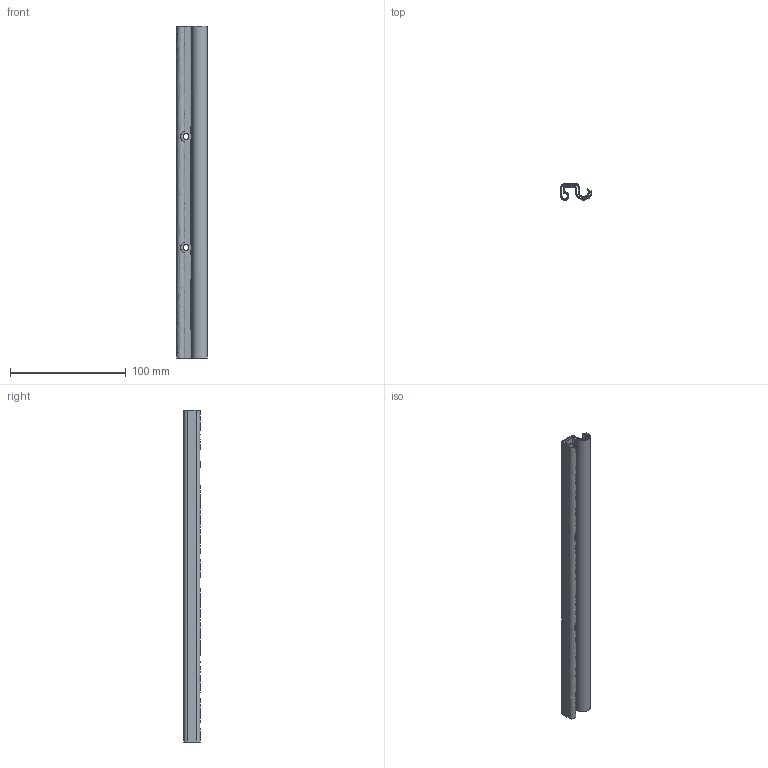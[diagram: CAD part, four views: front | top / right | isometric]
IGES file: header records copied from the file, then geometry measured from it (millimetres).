
Global section: file name: roletka_1kus_pro_uchy_newt; native system: Autodesk Inventor 2015; preprocessor: unknown; author: uidn2323; date: 20160121.103219; units: millimetre
Bounding box: 26.11 x 13.92 x 287 mm (x, y, z)
Volume: 23284.5 mm3; surface area: 58680 mm2
Topology: 1 solids, 1 shells, 38 faces, 106 edges, 72 vertices
Faces by surface type: bspline 38
